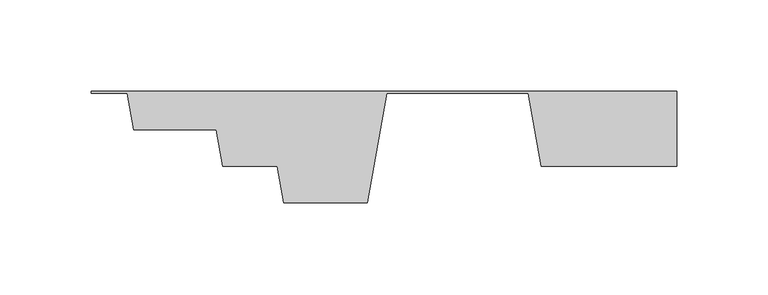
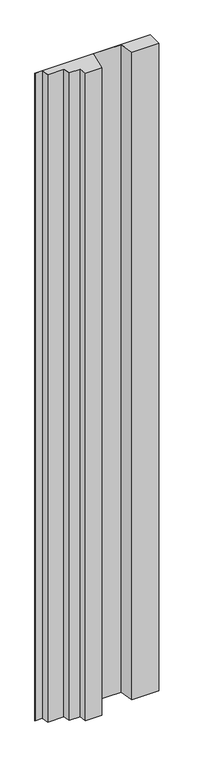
"""IFC4 building model written with IfcOpenShell, lengths in millimetres: plate geometry, ATELIERS 3S_NEW YORK MANHATTAN 780_VERTICAL : AZURO."""

from ifc_helpers import new_model, si_unit, origin, origin_with_axes, place, context, project, spatial, polyline, outline, extrude, source, transform, mapped, element, save


def plate_74e9e570(model_context):
    return source(origin(), model_context, "Body", "SweptSolid", [
        extrude(outline(polyline([(-140.3146622, -0.864757), (-159.9999998, -0.864757), (-159.9999998, 0.0), (159.9999998, 0.0), (159.9999998, -40.864757), (85.8976547, -40.864757), (78.8445755, -0.864757), (1.4739002, -0.864757), (-9.1057186, -60.864757), (-54.7350434, -60.864757), (-58.261583, -40.864757), (-88.261583, -40.864757), (-91.7881226, -20.864757), (-136.7881226, -20.864757), (-140.3146622, -0.864757)])), origin_with_axes(), (0.0, 0.0, 1.0), 1900.0),
    ])


if __name__ == "__main__":
    model = new_model("IFC4")
    model_context = context("Model", 3, world=origin())
    ifc_project = project(units=[si_unit("LENGTHUNIT", "METRE", prefix="MILLI")], contexts=[model_context])
    site = spatial("IfcSite", under=ifc_project)
    building = spatial("IfcBuilding", under=site)
    placement = place(None, origin())
    plate_shape = plate_74e9e570(model_context)
    element("IfcPlate", 1, ObjectType="ATELIERS 3S_NEW YORK MANHATTAN 780_VERTICAL : AZURO", at=placement, inside=building, context=model_context, shape_type="MappedRepresentation", body=[
        mapped(plate_shape, transform((0.0, 0.0, 0.0), x_axis=(1.0, 0.0, 0.0), y_axis=(0.0, 1.0, 0.0), z_axis=(0.0, 0.0, 1.0))),
    ])
    save(model, "model.ifc")
